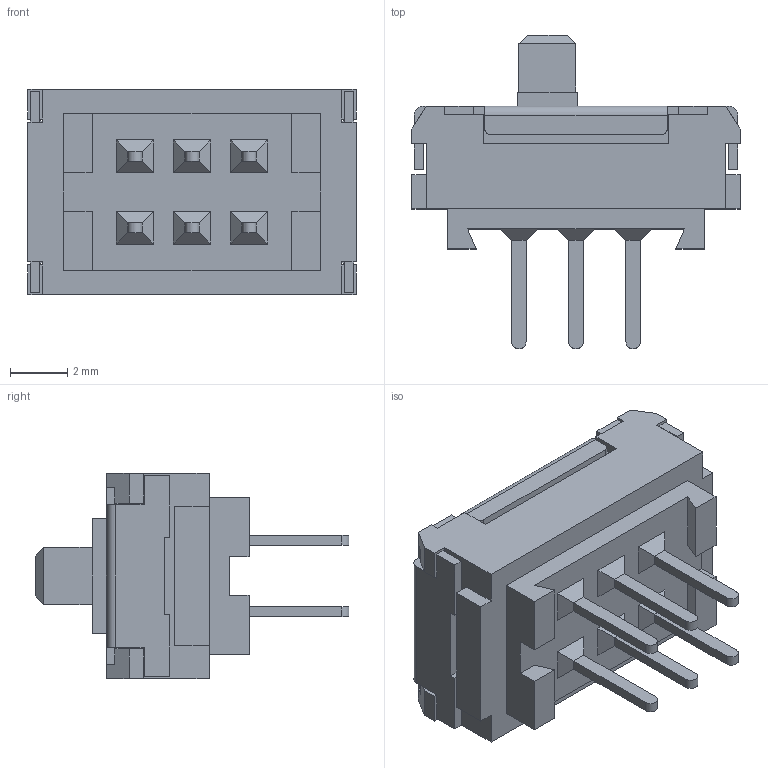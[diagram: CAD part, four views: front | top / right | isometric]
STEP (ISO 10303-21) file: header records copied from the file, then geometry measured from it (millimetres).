
FILE_DESCRIPTION (( 'STEP AP214' ), '1' );
FILE_NAME ('SSSS922000.STEP', '2011-04-04T11:26:08', ( '' ), ( '' ), 'SwSTEP 2.0', 'SolidWorks 2007', '' );
FILE_SCHEMA (( 'AUTOMOTIVE_DESIGN' ));
Length unit declared in the file: millimetre
Products named in the file (1): SSSS922000
Bounding box: 11.5 x 11 x 7.2 mm (x, y, z)
Volume: 339.4 mm3; surface area: 466.8 mm2
Topology: 1 solids, 1 shells, 207 faces, 542 edges, 346 vertices
Faces by surface type: plane 193, cylinder 14
Entity records: 7341 total; most frequent: CARTESIAN_POINT 1096, ORIENTED_EDGE 1084, DIRECTION 986, EDGE_CURVE 542, LINE 514, VECTOR 514, VERTEX_POINT 346, AXIS2_PLACEMENT_3D 236
